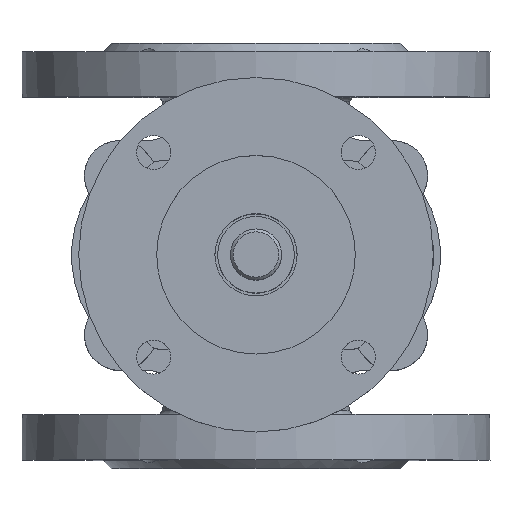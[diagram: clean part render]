
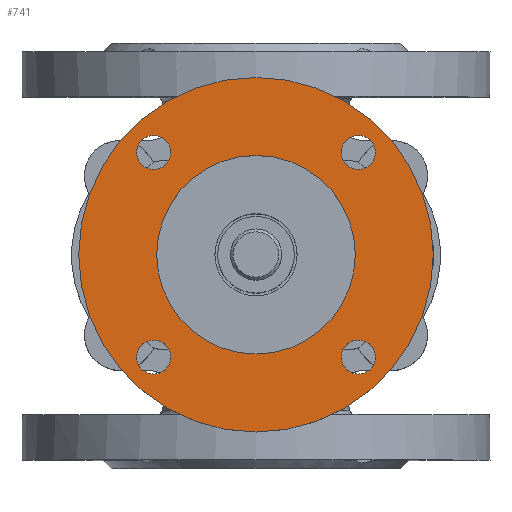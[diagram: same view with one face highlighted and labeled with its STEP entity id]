
A CAD part, top view. The second image highlights one B-rep face of the part: STEP entity #741.
In plain terms, the highlighted planar face has unit normal (0, 0, 1).
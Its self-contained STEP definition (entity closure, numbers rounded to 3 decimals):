
#741=ADVANCED_FACE('',(#2827,#2829,#2831,#2833,#2835,#2837),#2839,.T.);
#2827=FACE_BOUND('',#2828,.T.);
#2828=EDGE_LOOP('',(#4421));
#2829=FACE_BOUND('',#2830,.T.);
#2830=EDGE_LOOP('',(#4422));
#2831=FACE_BOUND('',#2832,.T.);
#2832=EDGE_LOOP('',(#4423));
#2833=FACE_BOUND('',#2834,.T.);
#2834=EDGE_LOOP('',(#4424));
#2835=FACE_BOUND('',#2836,.T.);
#2836=EDGE_LOOP('',(#4425));
#2837=FACE_BOUND('',#2838,.T.);
#2838=EDGE_LOOP('',(#4426));
#2839=PLANE('',#2840);
#2840=AXIS2_PLACEMENT_3D('',#2841,#2842,#2843);
#2841=CARTESIAN_POINT('',(0.,0.,255.5));
#2842=DIRECTION('',(0.,0.,1.));
#2843=DIRECTION('',(-1.,0.,0.));
#4421=ORIENTED_EDGE('',*,*,#5529,.F.);
#4422=ORIENTED_EDGE('',*,*,#5530,.T.);
#4423=ORIENTED_EDGE('',*,*,#5531,.T.);
#4424=ORIENTED_EDGE('',*,*,#5532,.T.);
#4425=ORIENTED_EDGE('',*,*,#5535,.T.);
#4426=ORIENTED_EDGE('',*,*,#5533,.T.);
#5529=EDGE_CURVE('',#6309,#6309,#6310,.T.);
#5530=EDGE_CURVE('',#6311,#6311,#6312,.F.);
#5531=EDGE_CURVE('',#6313,#6313,#6314,.F.);
#5532=EDGE_CURVE('',#6315,#6315,#6316,.F.);
#5533=EDGE_CURVE('',#6317,#6317,#6318,.F.);
#5535=EDGE_CURVE('',#6321,#6321,#6322,.T.);
#6309=VERTEX_POINT('',#8273);
#6310=CIRCLE('',#8274,62.5);
#6311=VERTEX_POINT('',#8278);
#6312=CIRCLE('',#8279,6.);
#6313=VERTEX_POINT('',#8283);
#6314=CIRCLE('',#8284,6.);
#6315=VERTEX_POINT('',#8288);
#6316=CIRCLE('',#8289,6.);
#6317=VERTEX_POINT('',#8293);
#6318=CIRCLE('',#8294,6.);
#6321=VERTEX_POINT('',#8303);
#6322=CIRCLE('',#8304,35.);
#8273=CARTESIAN_POINT('',(-62.5,0.,255.5));
#8274=AXIS2_PLACEMENT_3D('',#8275,#8276,#8277);
#8275=CARTESIAN_POINT('',(0.,0.,255.5));
#8276=DIRECTION('',(0.,0.,-1.));
#8277=DIRECTION('',(-1.,0.,0.));
#8278=CARTESIAN_POINT('',(36.062,-30.062,255.5));
#8279=AXIS2_PLACEMENT_3D('',#8280,#8281,#8282);
#8280=CARTESIAN_POINT('',(36.062,-36.062,255.5));
#8281=DIRECTION('',(0.,0.,1.));
#8282=DIRECTION('',(0.,1.,0.));
#8283=CARTESIAN_POINT('',(-30.062,-36.062,255.5));
#8284=AXIS2_PLACEMENT_3D('',#8285,#8286,#8287);
#8285=CARTESIAN_POINT('',(-36.062,-36.062,255.5));
#8286=DIRECTION('',(0.,0.,1.));
#8287=DIRECTION('',(1.,0.,0.));
#8288=CARTESIAN_POINT('',(-36.062,30.062,255.5));
#8289=AXIS2_PLACEMENT_3D('',#8290,#8291,#8292);
#8290=CARTESIAN_POINT('',(-36.062,36.062,255.5));
#8291=DIRECTION('',(0.,0.,1.));
#8292=DIRECTION('',(0.,-1.,0.));
#8293=CARTESIAN_POINT('',(30.062,36.062,255.5));
#8294=AXIS2_PLACEMENT_3D('',#8295,#8296,#8297);
#8295=CARTESIAN_POINT('',(36.062,36.062,255.5));
#8296=DIRECTION('',(0.,0.,1.));
#8297=DIRECTION('',(-1.,0.,0.));
#8303=CARTESIAN_POINT('',(-35.,0.,255.5));
#8304=AXIS2_PLACEMENT_3D('',#8305,#8306,#8307);
#8305=CARTESIAN_POINT('',(0.,0.,255.5));
#8306=DIRECTION('',(0.,0.,-1.));
#8307=DIRECTION('',(-1.,0.,0.));
